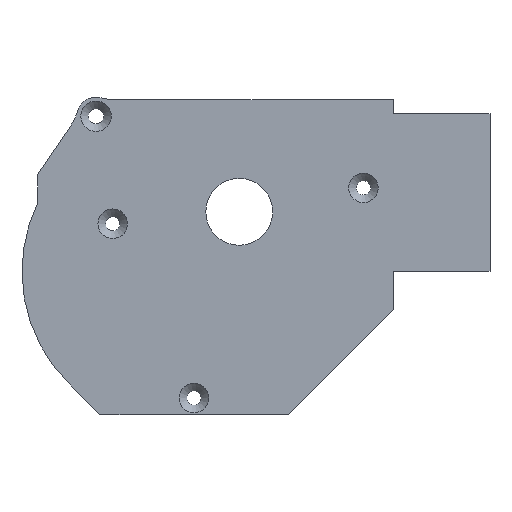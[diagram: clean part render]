
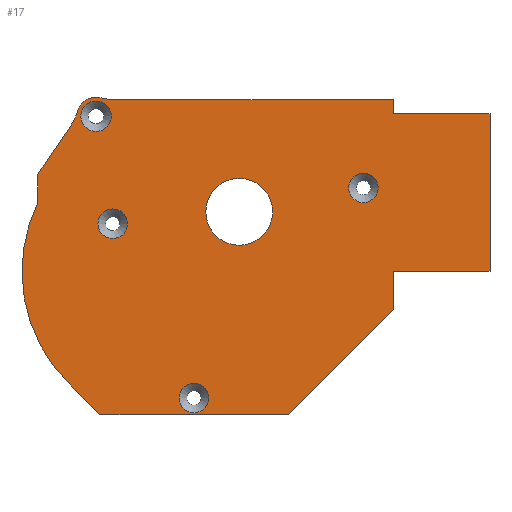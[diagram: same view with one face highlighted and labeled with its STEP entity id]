
A CAD part, front view. The second image highlights one B-rep face of the part: STEP entity #17.
In plain terms, the highlighted planar face has unit normal (0, -1, 0).
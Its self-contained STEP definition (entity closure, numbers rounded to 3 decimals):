
#17 = ADVANCED_FACE('',(#18,#144,#155,#166,#177,#188),#199,.T.);
#18 = FACE_BOUND('',#19,.T.);
#19 = EDGE_LOOP('',(#20,#30,#38,#47,#55,#63,#71,#79,#87,#95,#103,#111,
    #119,#128,#137));
#20 = ORIENTED_EDGE('',*,*,#21,.F.);
#21 = EDGE_CURVE('',#22,#24,#26,.T.);
#22 = VERTEX_POINT('',#23);
#23 = CARTESIAN_POINT('',(-94.75,0.,20.25));
#24 = VERTEX_POINT('',#25);
#25 = CARTESIAN_POINT('',(-87.7,0.,
    30.668));
#26 = LINE('',#27,#28);
#27 = CARTESIAN_POINT('',(-94.75,0.,20.25));
#28 = VECTOR('',#29,1.);
#29 = DIRECTION('',(0.56,0.,0.828));
#30 = ORIENTED_EDGE('',*,*,#31,.F.);
#31 = EDGE_CURVE('',#32,#22,#34,.T.);
#32 = VERTEX_POINT('',#33);
#33 = CARTESIAN_POINT('',(-94.75,0.,14.281));
#34 = LINE('',#35,#36);
#35 = CARTESIAN_POINT('',(-94.75,0.,14.281));
#36 = VECTOR('',#37,1.);
#37 = DIRECTION('',(0.,0.,1.));
#38 = ORIENTED_EDGE('',*,*,#39,.T.);
#39 = EDGE_CURVE('',#32,#40,#42,.T.);
#40 = VERTEX_POINT('',#41);
#41 = CARTESIAN_POINT('',(-88.335,0.,
    -23.335));
#42 = CIRCLE('',#43,33.);
#43 = AXIS2_PLACEMENT_3D('',#44,#45,#46);
#44 = CARTESIAN_POINT('',(-65.,0.,0.));
#45 = DIRECTION('',(0.,-1.,0.));
#46 = DIRECTION('',(1.,0.,0.));
#47 = ORIENTED_EDGE('',*,*,#48,.T.);
#48 = EDGE_CURVE('',#40,#49,#51,.T.);
#49 = VERTEX_POINT('',#50);
#50 = CARTESIAN_POINT('',(-81.669,0.,-30.));
#51 = LINE('',#52,#53);
#52 = CARTESIAN_POINT('',(-88.335,0.,
    -23.335));
#53 = VECTOR('',#54,1.);
#54 = DIRECTION('',(0.707,0.,-0.707)
  );
#55 = ORIENTED_EDGE('',*,*,#56,.T.);
#56 = EDGE_CURVE('',#49,#57,#59,.T.);
#57 = VERTEX_POINT('',#58);
#58 = CARTESIAN_POINT('',(-42.25,0.,-30.));
#59 = LINE('',#60,#61);
#60 = CARTESIAN_POINT('',(-81.669,0.,-30.));
#61 = VECTOR('',#62,1.);
#62 = DIRECTION('',(1.,0.,0.));
#63 = ORIENTED_EDGE('',*,*,#64,.T.);
#64 = EDGE_CURVE('',#57,#65,#67,.T.);
#65 = VERTEX_POINT('',#66);
#66 = CARTESIAN_POINT('',(-20.25,0.,-8.));
#67 = LINE('',#68,#69);
#68 = CARTESIAN_POINT('',(-42.25,0.,-30.));
#69 = VECTOR('',#70,1.);
#70 = DIRECTION('',(0.707,0.,0.707));
#71 = ORIENTED_EDGE('',*,*,#72,.T.);
#72 = EDGE_CURVE('',#65,#73,#75,.T.);
#73 = VERTEX_POINT('',#74);
#74 = CARTESIAN_POINT('',(-20.25,0.,0.));
#75 = LINE('',#76,#77);
#76 = CARTESIAN_POINT('',(-20.25,0.,-8.));
#77 = VECTOR('',#78,1.);
#78 = DIRECTION('',(0.,0.,1.));
#79 = ORIENTED_EDGE('',*,*,#80,.F.);
#80 = EDGE_CURVE('',#81,#73,#83,.T.);
#81 = VERTEX_POINT('',#82);
#82 = CARTESIAN_POINT('',(0.,0.,0.));
#83 = LINE('',#84,#85);
#84 = CARTESIAN_POINT('',(0.,0.,0.));
#85 = VECTOR('',#86,1.);
#86 = DIRECTION('',(-1.,0.,0.));
#87 = ORIENTED_EDGE('',*,*,#88,.F.);
#88 = EDGE_CURVE('',#89,#81,#91,.T.);
#89 = VERTEX_POINT('',#90);
#90 = CARTESIAN_POINT('',(0.,0.,33.));
#91 = LINE('',#92,#93);
#92 = CARTESIAN_POINT('',(0.,0.,33.));
#93 = VECTOR('',#94,1.);
#94 = DIRECTION('',(0.,0.,-1.));
#95 = ORIENTED_EDGE('',*,*,#96,.F.);
#96 = EDGE_CURVE('',#97,#89,#99,.T.);
#97 = VERTEX_POINT('',#98);
#98 = CARTESIAN_POINT('',(-20.25,0.,33.));
#99 = LINE('',#100,#101);
#100 = CARTESIAN_POINT('',(-65.,0.,33.));
#101 = VECTOR('',#102,1.);
#102 = DIRECTION('',(1.,0.,0.));
#103 = ORIENTED_EDGE('',*,*,#104,.F.);
#104 = EDGE_CURVE('',#105,#97,#107,.T.);
#105 = VERTEX_POINT('',#106);
#106 = CARTESIAN_POINT('',(-20.25,0.,36.));
#107 = LINE('',#108,#109);
#108 = CARTESIAN_POINT('',(-20.25,0.,36.));
#109 = VECTOR('',#110,1.);
#110 = DIRECTION('',(0.,0.,-1.));
#111 = ORIENTED_EDGE('',*,*,#112,.T.);
#112 = EDGE_CURVE('',#105,#113,#115,.T.);
#113 = VERTEX_POINT('',#114);
#114 = CARTESIAN_POINT('',(-78.792,0.,36.));
#115 = LINE('',#116,#117);
#116 = CARTESIAN_POINT('',(-20.25,0.,36.));
#117 = VECTOR('',#118,1.);
#118 = DIRECTION('',(-1.,0.,0.));
#119 = ORIENTED_EDGE('',*,*,#120,.F.);
#120 = EDGE_CURVE('',#121,#113,#123,.T.);
#121 = VERTEX_POINT('',#122);
#122 = CARTESIAN_POINT('',(-81.441,0.,
    36.357));
#123 = CIRCLE('',#124,10.);
#124 = AXIS2_PLACEMENT_3D('',#125,#126,#127);
#125 = CARTESIAN_POINT('',(-78.792,0.,46.));
#126 = DIRECTION('',(0.,-1.,0.));
#127 = DIRECTION('',(0.,0.,1.));
#128 = ORIENTED_EDGE('',*,*,#129,.T.);
#129 = EDGE_CURVE('',#121,#130,#132,.T.);
#130 = VERTEX_POINT('',#131);
#131 = CARTESIAN_POINT('',(-86.352,0.,
    33.578));
#132 = CIRCLE('',#133,4.);
#133 = AXIS2_PLACEMENT_3D('',#134,#135,#136);
#134 = CARTESIAN_POINT('',(-82.5,0.,32.5));
#135 = DIRECTION('',(0.,-1.,0.));
#136 = DIRECTION('',(1.,0.,0.));
#137 = ORIENTED_EDGE('',*,*,#138,.F.);
#138 = EDGE_CURVE('',#24,#130,#139,.T.);
#139 = CIRCLE('',#140,10.);
#140 = AXIS2_PLACEMENT_3D('',#141,#142,#143);
#141 = CARTESIAN_POINT('',(-95.982,0.,
    36.273));
#142 = DIRECTION('',(0.,-1.,0.));
#143 = DIRECTION('',(0.,0.,1.));
#144 = FACE_BOUND('',#145,.T.);
#145 = EDGE_LOOP('',(#146));
#146 = ORIENTED_EDGE('',*,*,#147,.F.);
#147 = EDGE_CURVE('',#148,#148,#150,.T.);
#148 = VERTEX_POINT('',#149);
#149 = CARTESIAN_POINT('',(-79.31,0.,32.5));
#150 = CIRCLE('',#151,3.19);
#151 = AXIS2_PLACEMENT_3D('',#152,#153,#154);
#152 = CARTESIAN_POINT('',(-82.5,0.,32.5));
#153 = DIRECTION('',(0.,-1.,0.));
#154 = DIRECTION('',(1.,0.,0.));
#155 = FACE_BOUND('',#156,.T.);
#156 = EDGE_LOOP('',(#157));
#157 = ORIENTED_EDGE('',*,*,#158,.F.);
#158 = EDGE_CURVE('',#159,#159,#161,.T.);
#159 = VERTEX_POINT('',#160);
#160 = CARTESIAN_POINT('',(-23.41,0.,17.5));
#161 = CIRCLE('',#162,3.09);
#162 = AXIS2_PLACEMENT_3D('',#163,#164,#165);
#163 = CARTESIAN_POINT('',(-26.5,0.,17.5));
#164 = DIRECTION('',(0.,-1.,0.));
#165 = DIRECTION('',(1.,0.,0.));
#166 = FACE_BOUND('',#167,.T.);
#167 = EDGE_LOOP('',(#168));
#168 = ORIENTED_EDGE('',*,*,#169,.F.);
#169 = EDGE_CURVE('',#170,#170,#172,.T.);
#170 = VERTEX_POINT('',#171);
#171 = CARTESIAN_POINT('',(-45.5,0.,12.5));
#172 = CIRCLE('',#173,7.);
#173 = AXIS2_PLACEMENT_3D('',#174,#175,#176);
#174 = CARTESIAN_POINT('',(-52.5,0.,12.5));
#175 = DIRECTION('',(0.,-1.,0.));
#176 = DIRECTION('',(1.,0.,0.));
#177 = FACE_BOUND('',#178,.T.);
#178 = EDGE_LOOP('',(#179));
#179 = ORIENTED_EDGE('',*,*,#180,.F.);
#180 = EDGE_CURVE('',#181,#181,#183,.T.);
#181 = VERTEX_POINT('',#182);
#182 = CARTESIAN_POINT('',(-58.91,0.,-26.5));
#183 = CIRCLE('',#184,3.09);
#184 = AXIS2_PLACEMENT_3D('',#185,#186,#187);
#185 = CARTESIAN_POINT('',(-62.,0.,-26.5));
#186 = DIRECTION('',(0.,-1.,0.));
#187 = DIRECTION('',(1.,0.,0.));
#188 = FACE_BOUND('',#189,.T.);
#189 = EDGE_LOOP('',(#190));
#190 = ORIENTED_EDGE('',*,*,#191,.F.);
#191 = EDGE_CURVE('',#192,#192,#194,.T.);
#192 = VERTEX_POINT('',#193);
#193 = CARTESIAN_POINT('',(-75.91,0.,10.));
#194 = CIRCLE('',#195,3.09);
#195 = AXIS2_PLACEMENT_3D('',#196,#197,#198);
#196 = CARTESIAN_POINT('',(-79.,0.,10.));
#197 = DIRECTION('',(0.,-1.,0.));
#198 = DIRECTION('',(1.,0.,0.));
#199 = PLANE('',#200);
#200 = AXIS2_PLACEMENT_3D('',#201,#202,#203);
#201 = CARTESIAN_POINT('',(-48.696,0.,
    6.811));
#202 = DIRECTION('',(0.,-1.,0.));
#203 = DIRECTION('',(0.,0.,1.));
